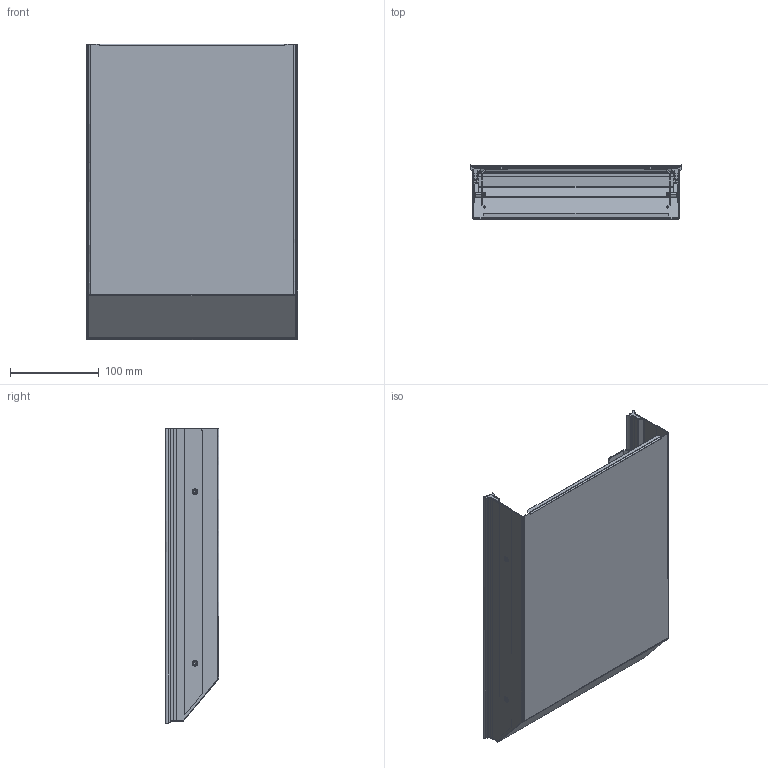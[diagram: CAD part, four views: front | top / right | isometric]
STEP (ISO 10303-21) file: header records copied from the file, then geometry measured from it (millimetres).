
FILE_DESCRIPTION(/* description */ (''),/* implementation_level */ '2;1');
FILE_NAME(/* name */ 'SSC-13A',/* time_stamp */ '2020-03-11T10:01:49+01:00',/* author */ (''),/* organization */ (''),/* preprocessor_version */ 'ST-DEVELOPER v14',/* originating_system */ '',/* authorisation */ '');
FILE_SCHEMA (('CONFIG_CONTROL_DESIGN'));
Length unit declared in the file: millimetre
Products named in the file (1): Document
Bounding box: 238.4 x 60.56 x 332.7 mm (x, y, z)
Volume: 39677.8 mm3; surface area: 412924.5 mm2
Topology: 7 solids, 12 shells, 538 faces, 1418 edges, 853 vertices
Faces by surface type: bspline 331, plane 207
Entity records: 20537 total; most frequent: CARTESIAN_POINT 12148, ORIENTED_EDGE 2718, EDGE_CURVE 1410, B_SPLINE_CURVE_WITH_KNOTS 962, VERTEX_POINT 853, EDGE_LOOP 578, ADVANCED_FACE 538, FACE_OUTER_BOUND 538
